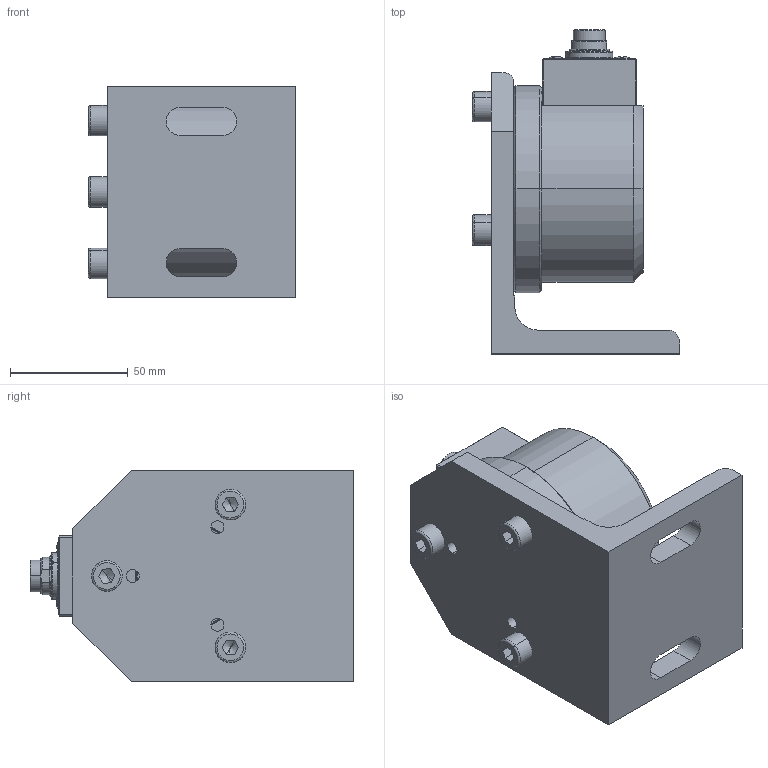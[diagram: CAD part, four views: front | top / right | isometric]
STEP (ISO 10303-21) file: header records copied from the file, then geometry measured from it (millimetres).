
FILE_DESCRIPTION (( 'STEP AP214' ), '1' );
FILE_NAME ('DRT2-200-300 mit Haltewinkel.STEP', '2020-02-12T07:36:10', ( 'nsi' ), ( '' ), 'SwSTEP 2.0', 'SolidWorks 2020', '' );
FILE_SCHEMA (( 'AUTOMOTIVE_DESIGN' ));
Length unit declared in the file: millimetre
Products named in the file (1): DRT2-200-300 mit Haltewinkel
Bounding box: 88 x 137.6 x 90 mm (x, y, z)
Surface area: 71679.7 mm2 (no closed solid volume)
Topology: 0 solids, 13 shells, 253 faces, 735 edges, 494 vertices
Faces by surface type: plane 109, cylinder 68, cone 41, torus 31, sphere 4
Entity records: 11499 total; most frequent: CARTESIAN_POINT 1863, DIRECTION 1521, ORIENTED_EDGE 1293, EDGE_CURVE 729, AXIS2_PLACEMENT_3D 597, VERTEX_POINT 494, CIRCLE 343, VECTOR 327
